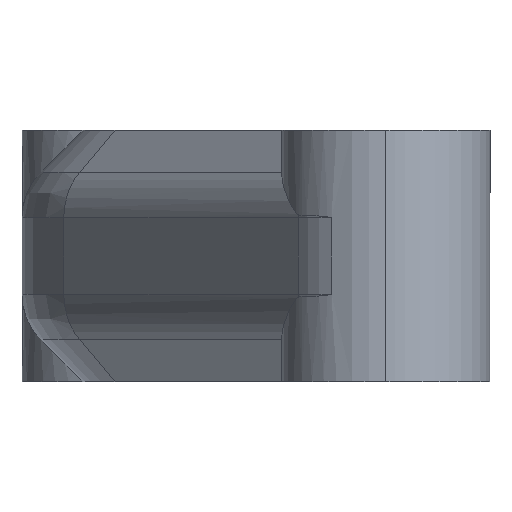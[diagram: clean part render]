
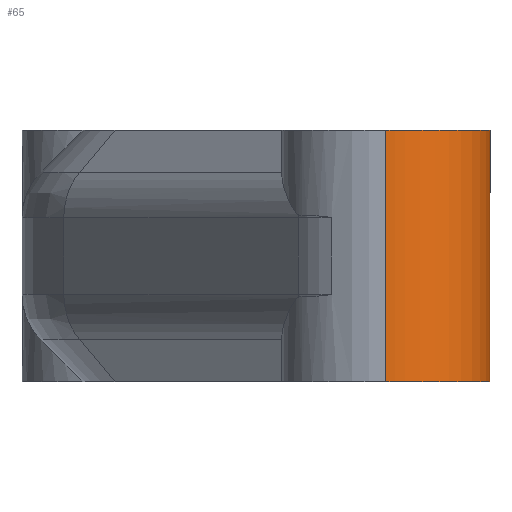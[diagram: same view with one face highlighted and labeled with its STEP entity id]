
A CAD part, left-side view. The second image highlights one B-rep face of the part: STEP entity #65.
In plain terms, the highlighted cylindrical face has radius 4.009 mm (diameter 8.018 mm), a partial arc.
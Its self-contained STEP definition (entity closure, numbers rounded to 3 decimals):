
#65=ADVANCED_FACE('',(#125),#931,.T.);
#125=FACE_OUTER_BOUND('',#185,.T.);
#185=EDGE_LOOP('',(#397,#398,#399,#400,#401,#402,#403,#404));
#397=ORIENTED_EDGE('',*,*,#551,.T.);
#398=ORIENTED_EDGE('',*,*,#549,.T.);
#399=ORIENTED_EDGE('',*,*,#548,.T.);
#400=ORIENTED_EDGE('',*,*,#552,.F.);
#401=ORIENTED_EDGE('',*,*,#550,.F.);
#402=ORIENTED_EDGE('',*,*,#599,.T.);
#403=ORIENTED_EDGE('',*,*,#491,.T.);
#404=ORIENTED_EDGE('',*,*,#611,.F.);
#491=EDGE_CURVE('',#870,#878,#716,.T.);
#548=EDGE_CURVE('',#848,#849,#724,.T.);
#549=EDGE_CURVE('',#850,#848,#769,.T.);
#550=EDGE_CURVE('',#874,#851,#770,.T.);
#551=EDGE_CURVE('',#880,#850,#771,.T.);
#552=EDGE_CURVE('',#851,#849,#772,.T.);
#599=EDGE_CURVE('',#874,#870,#732,.T.);
#611=EDGE_CURVE('',#880,#878,#735,.T.);
#716=(
BOUNDED_CURVE()
B_SPLINE_CURVE(1,(#1660,#1661),.UNSPECIFIED.,.F.,.F.)
B_SPLINE_CURVE_WITH_KNOTS((2,2),(0.15,9.85),.UNSPECIFIED.)
CURVE()
GEOMETRIC_REPRESENTATION_ITEM()
RATIONAL_B_SPLINE_CURVE((1.,1.))
REPRESENTATION_ITEM('')
);
#724=(
BOUNDED_CURVE()
B_SPLINE_CURVE(1,(#1900,#1901),.UNSPECIFIED.,.F.,.F.)
B_SPLINE_CURVE_WITH_KNOTS((2,2),(-6.464,-3.536),
 .UNSPECIFIED.)
CURVE()
GEOMETRIC_REPRESENTATION_ITEM()
RATIONAL_B_SPLINE_CURVE((1.,1.))
REPRESENTATION_ITEM('')
);
#732=(
BOUNDED_CURVE()
B_SPLINE_CURVE(2,(#2385,#2386,#2387,#2388,#2389,#2390,#2391),
 .UNSPECIFIED.,.F.,.F.)
B_SPLINE_CURVE_WITH_KNOTS((3,2,2,3),(-13.247,-12.594,
-6.297,0.),.UNSPECIFIED.)
CURVE()
GEOMETRIC_REPRESENTATION_ITEM()
RATIONAL_B_SPLINE_CURVE((1.,0.997,1.,0.707,1.,0.707,
1.))
REPRESENTATION_ITEM('')
);
#735=(
BOUNDED_CURVE()
B_SPLINE_CURVE(2,(#2428,#2429,#2430,#2431,#2432,#2433,#2434),
 .UNSPECIFIED.,.F.,.F.)
B_SPLINE_CURVE_WITH_KNOTS((3,2,2,3),(-13.247,-12.594,
-6.297,0.),.UNSPECIFIED.)
CURVE()
GEOMETRIC_REPRESENTATION_ITEM()
RATIONAL_B_SPLINE_CURVE((1.,0.997,1.,0.707,1.,0.707,
1.))
REPRESENTATION_ITEM('')
);
#769=B_SPLINE_CURVE_WITH_KNOTS('',3,(#1902,#1903,#1904,#1905,#1906,#1907,
#1908,#1909,#1910,#1911,#1912,#1913,#1914,#1915,#1916,#1917,#1918,#1919,
#1920),.UNSPECIFIED.,.F.,.F.,(4,2,2,3,2,2,2,2,4),(0.,0.999,
1.5,1.999,2.214,2.427,2.636,
2.745,2.857),.UNSPECIFIED.);
#770=B_SPLINE_CURVE_WITH_KNOTS('',3,(#1921,#1922,#1923,#1924,#1925,#1926,
#1927),.UNSPECIFIED.,.F.,.F.,(4,3,4),(0.222,1.027,
2.904),.UNSPECIFIED.);
#771=B_SPLINE_CURVE_WITH_KNOTS('',3,(#1928,#1929,#1930,#1931,#1932,#1933,
#1934),.UNSPECIFIED.,.F.,.F.,(4,3,4),(0.222,1.027,
2.904),.UNSPECIFIED.);
#772=B_SPLINE_CURVE_WITH_KNOTS('',3,(#1935,#1936,#1937,#1938,#1939,#1940,
#1941,#1942,#1943,#1944,#1945,#1946,#1947,#1948,#1949,#1950,#1951,#1952,
#1953),.UNSPECIFIED.,.F.,.F.,(4,2,2,3,2,2,2,2,4),(0.,0.999,
1.5,1.999,2.214,2.427,2.636,
2.745,2.857),.UNSPECIFIED.);
#848=VERTEX_POINT('',#1602);
#849=VERTEX_POINT('',#1603);
#850=VERTEX_POINT('',#1604);
#851=VERTEX_POINT('',#1605);
#870=VERTEX_POINT('',#1624);
#874=VERTEX_POINT('',#1628);
#878=VERTEX_POINT('',#1632);
#880=VERTEX_POINT('',#1634);
#931=CYLINDRICAL_SURFACE('',#1043,4.009);
#1043=AXIS2_PLACEMENT_3D('',#1253,#1127,$);
#1127=DIRECTION('',(0.,0.,-1.));
#1253=CARTESIAN_POINT('',(-0.009,-30.,4.991));
#1602=CARTESIAN_POINT('',(2.402,-33.203,3.526));
#1603=CARTESIAN_POINT('',(2.402,-33.203,6.455));
#1604=CARTESIAN_POINT('',(3.717,-31.479,1.759));
#1605=CARTESIAN_POINT('',(3.717,-31.479,8.223));
#1624=CARTESIAN_POINT('',(-4.018,-30.,9.841));
#1628=CARTESIAN_POINT('',(3.955,-29.398,9.841));
#1632=CARTESIAN_POINT('',(-4.018,-30.,0.141));
#1634=CARTESIAN_POINT('',(3.955,-29.398,0.141));
#1660=CARTESIAN_POINT('',(-4.018,-30.,9.841));
#1661=CARTESIAN_POINT('',(-4.018,-30.,0.141));
#1900=CARTESIAN_POINT('',(2.402,-33.203,3.526));
#1901=CARTESIAN_POINT('',(2.402,-33.203,6.455));
#1902=CARTESIAN_POINT('',(3.717,-31.479,1.759));
#1903=CARTESIAN_POINT('',(3.611,-31.746,1.925));
#1904=CARTESIAN_POINT('',(3.479,-31.994,2.109));
#1905=CARTESIAN_POINT('',(3.254,-32.333,2.397));
#1906=CARTESIAN_POINT('',(3.174,-32.441,2.496));
#1907=CARTESIAN_POINT('',(3.006,-32.646,2.696));
#1908=CARTESIAN_POINT('',(2.917,-32.743,2.799));
#1909=CARTESIAN_POINT('',(2.826,-32.834,2.904));
#1910=CARTESIAN_POINT('',(2.787,-32.873,2.948));
#1911=CARTESIAN_POINT('',(2.748,-32.911,2.994));
#1912=CARTESIAN_POINT('',(2.67,-32.983,3.084));
#1913=CARTESIAN_POINT('',(2.629,-33.019,3.132));
#1914=CARTESIAN_POINT('',(2.552,-33.085,3.226));
#1915=CARTESIAN_POINT('',(2.509,-33.12,3.28));
#1916=CARTESIAN_POINT('',(2.456,-33.161,3.36));
#1917=CARTESIAN_POINT('',(2.438,-33.175,3.39));
#1918=CARTESIAN_POINT('',(2.411,-33.196,3.454));
#1919=CARTESIAN_POINT('',(2.402,-33.203,3.489));
#1920=CARTESIAN_POINT('',(2.402,-33.203,3.526));
#1921=CARTESIAN_POINT('',(3.955,-29.398,9.841));
#1922=CARTESIAN_POINT('',(3.984,-29.593,9.66));
#1923=CARTESIAN_POINT('',(4.,-29.795,9.483));
#1924=CARTESIAN_POINT('',(4.,-30.,9.311));
#1925=CARTESIAN_POINT('',(4.,-30.474,8.913));
#1926=CARTESIAN_POINT('',(3.916,-30.979,8.535));
#1927=CARTESIAN_POINT('',(3.717,-31.479,8.223));
#1928=CARTESIAN_POINT('',(3.955,-29.398,0.141));
#1929=CARTESIAN_POINT('',(3.984,-29.593,0.321));
#1930=CARTESIAN_POINT('',(4.,-29.795,0.499));
#1931=CARTESIAN_POINT('',(4.,-30.,0.671));
#1932=CARTESIAN_POINT('',(4.,-30.474,1.069));
#1933=CARTESIAN_POINT('',(3.916,-30.979,1.447));
#1934=CARTESIAN_POINT('',(3.717,-31.479,1.759));
#1935=CARTESIAN_POINT('',(3.717,-31.479,8.223));
#1936=CARTESIAN_POINT('',(3.611,-31.746,8.056));
#1937=CARTESIAN_POINT('',(3.479,-31.994,7.873));
#1938=CARTESIAN_POINT('',(3.254,-32.333,7.585));
#1939=CARTESIAN_POINT('',(3.174,-32.441,7.486));
#1940=CARTESIAN_POINT('',(3.006,-32.646,7.285));
#1941=CARTESIAN_POINT('',(2.917,-32.743,7.183));
#1942=CARTESIAN_POINT('',(2.826,-32.834,7.078));
#1943=CARTESIAN_POINT('',(2.787,-32.873,7.033));
#1944=CARTESIAN_POINT('',(2.748,-32.911,6.988));
#1945=CARTESIAN_POINT('',(2.67,-32.983,6.898));
#1946=CARTESIAN_POINT('',(2.629,-33.019,6.85));
#1947=CARTESIAN_POINT('',(2.552,-33.085,6.756));
#1948=CARTESIAN_POINT('',(2.509,-33.12,6.701));
#1949=CARTESIAN_POINT('',(2.456,-33.161,6.622));
#1950=CARTESIAN_POINT('',(2.438,-33.175,6.591));
#1951=CARTESIAN_POINT('',(2.411,-33.196,6.527));
#1952=CARTESIAN_POINT('',(2.402,-33.203,6.493));
#1953=CARTESIAN_POINT('',(2.402,-33.203,6.455));
#2385=CARTESIAN_POINT('',(3.955,-29.398,9.841));
#2386=CARTESIAN_POINT('',(4.,-29.697,9.841));
#2387=CARTESIAN_POINT('',(4.,-30.,9.841));
#2388=CARTESIAN_POINT('',(4.,-34.009,9.841));
#2389=CARTESIAN_POINT('',(-0.009,-34.009,9.841));
#2390=CARTESIAN_POINT('',(-4.018,-34.009,9.841));
#2391=CARTESIAN_POINT('',(-4.018,-30.,9.841));
#2428=CARTESIAN_POINT('',(3.955,-29.398,0.141));
#2429=CARTESIAN_POINT('',(4.,-29.697,0.141));
#2430=CARTESIAN_POINT('',(4.,-30.,0.141));
#2431=CARTESIAN_POINT('',(4.,-34.009,0.141));
#2432=CARTESIAN_POINT('',(-0.009,-34.009,0.141));
#2433=CARTESIAN_POINT('',(-4.018,-34.009,0.141));
#2434=CARTESIAN_POINT('',(-4.018,-30.,0.141));
